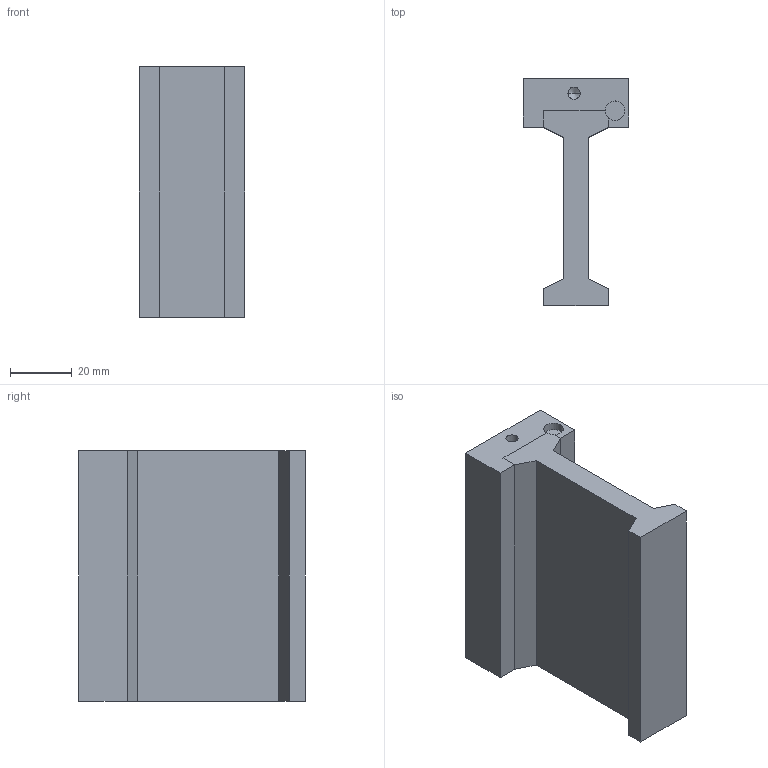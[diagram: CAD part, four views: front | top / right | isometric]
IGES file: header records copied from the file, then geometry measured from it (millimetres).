
Global section: file name: No Iges File Name specified; native system: AutoDesk Inventor R11.0; preprocessor: AutoDesk Inventor Iges Exporter R11.0; author: No Author specified; organization: No Organization specified; date: 20080205.101038; units: inch
Bounding box: 34.29 x 73.66 x 81.28 mm (x, y, z)
Volume: 89647.8 mm3; surface area: 21910.1 mm2
Topology: 1 solids, 1 shells, 49 faces, 125 edges, 71 vertices
Faces by surface type: bspline 28, plane 19, revolution 2
